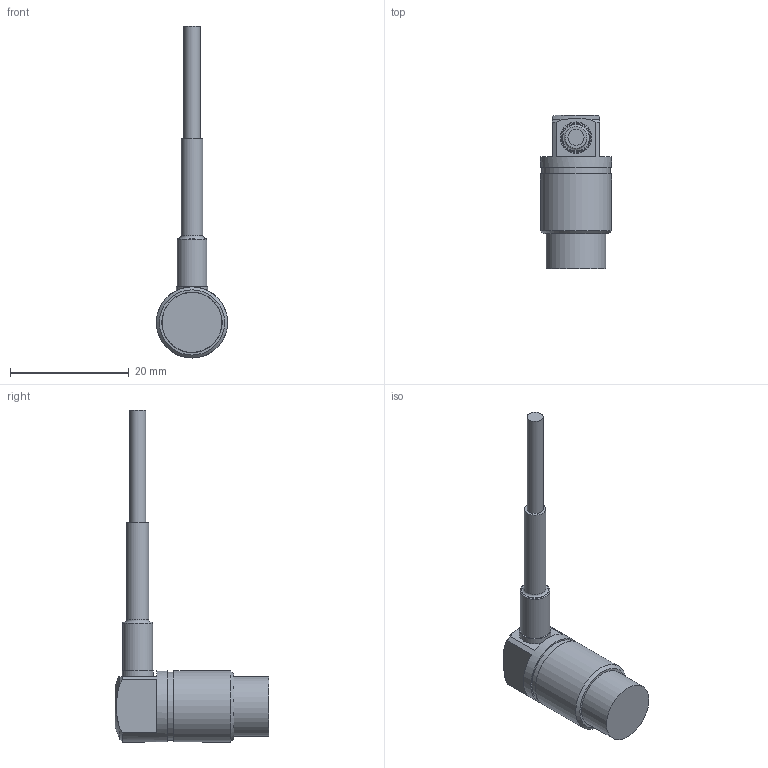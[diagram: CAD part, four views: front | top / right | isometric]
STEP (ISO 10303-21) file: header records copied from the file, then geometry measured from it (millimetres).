
FILE_DESCRIPTION( ( 'STEP AP214' ), '1' );
FILE_NAME( 'N:/Engineering/CAD_Solid/Wirbelstrom/Wirbelstromsensoren/T3/T3-S-KR.stp', '2013-04-26T07:48:06', ( ' ' ), ( ' ' ), 'XStep 1.0', ' ', ' ' );
FILE_SCHEMA( ( 'CONFIG_CONTROL_DESIGN) ( )' ) );
Length unit declared in the file: metre
Products named in the file (5): 1; 2; 3; 4; 5
Bounding box: 12 x 25.9 x 56 mm (x, y, z)
Surface area: 1963.5 mm2 (no closed solid volume)
Topology: 0 solids, 32 shells, 32 faces, 113 edges, 100 vertices
Faces by surface type: plane 16, cylinder 9, cone 5, torus 2
Full cylindrical faces by diameter (mm): 2.7 x1, 3.7 x1, 5 x1, 5.3 x1, 10.1 x1, 10.2 x1, 11.5 x1, 12 x2
Entity records: 1512 total; most frequent: CARTESIAN_POINT 311, DIRECTION 212, AXIS2_PLACEMENT_3D 97, ORIENTED_EDGE 96, EDGE_CURVE 96, VERTEX_POINT 96, CIRCLE 60, FACE_BOUND 53
